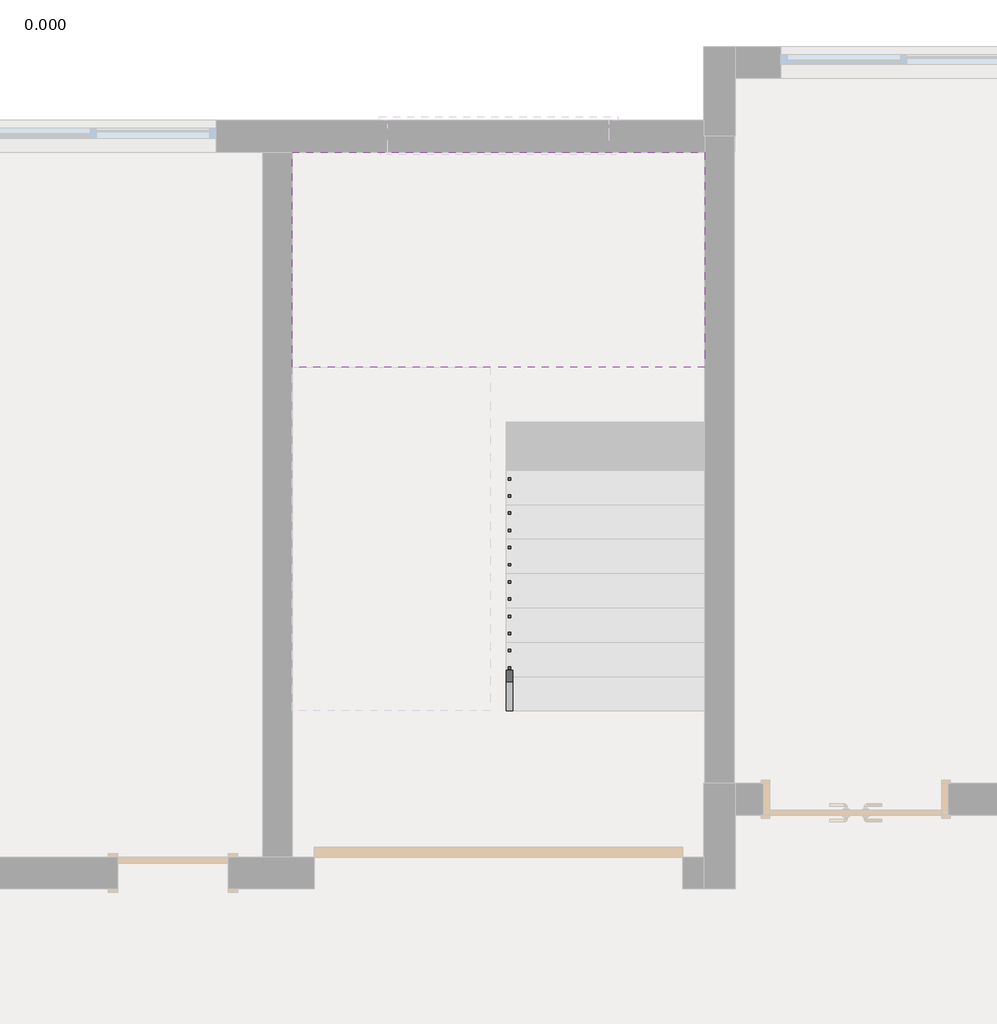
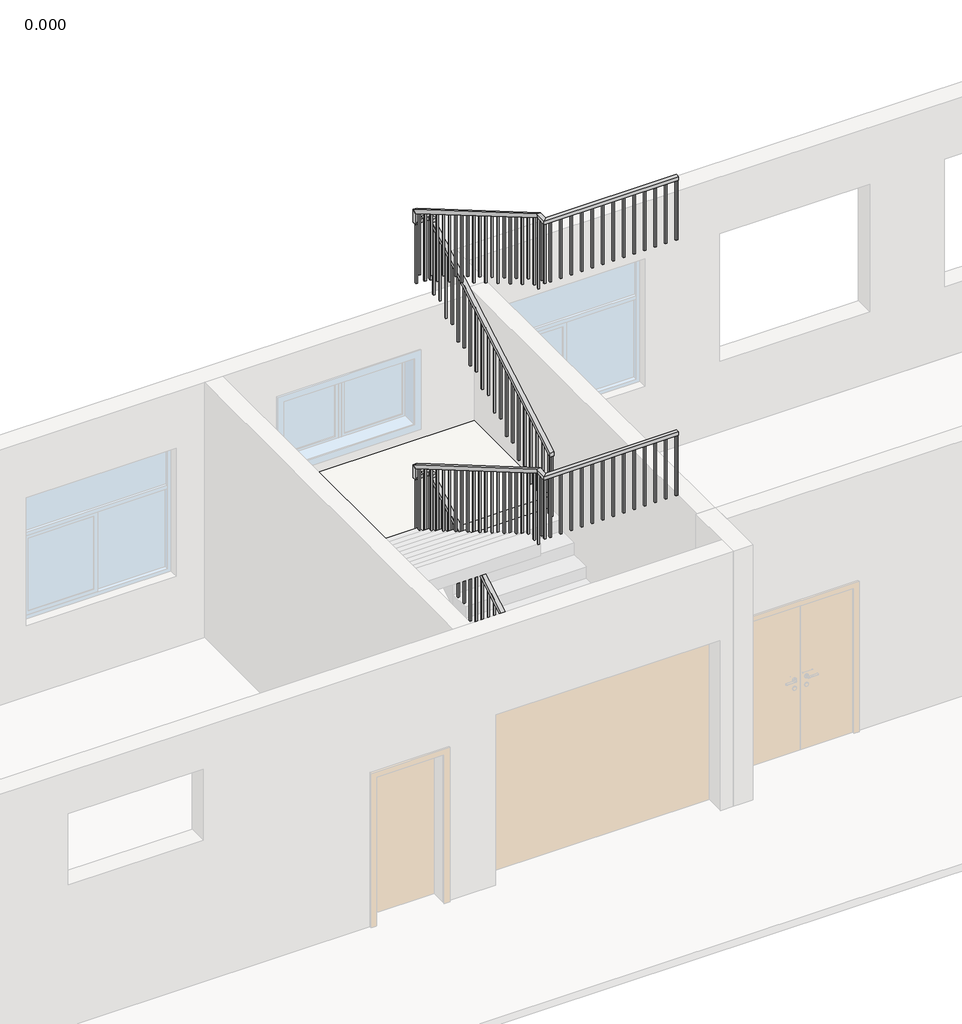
# One storey, part 2 of 3: 1 railing, 1 slab.
"""IFC4 building model written with IfcOpenShell, lengths in millimetres."""

from ifc_helpers import new_model, si_unit, frame, origin, place, context, project, spatial, polyline, outline, extrude, faceted_brep, element, save

model = new_model("IFC4")

# Units and contexts
model_context = context("Model", 3, world=origin())
ifc_project = project(units=[si_unit("LENGTHUNIT", "METRE", prefix="MILLI")], contexts=[model_context])

# Site, building, storey
site = spatial("IfcSite", under=ifc_project)
building = spatial("IfcBuilding", under=site)
storey = spatial("IfcBuildingStorey", under=building, Name="0.000", Elevation=0.0)

# Railing
placement = place(None, origin())
element("IfcRailing", 1, ObjectType="900mm", at=placement, inside=storey, context=model_context, shape_type="SolidModel", body=[
    faceted_brep([(406.2785458, -22818.2373497, 4663.6363636), (406.2785458, -22818.2373497, 4605.7238957), (456.2785458, -22818.2373497, 4605.7238957), (456.2785458, -22818.2373497, 4663.6363636), (406.2785458, -20092.8373497, 6256.4025974), (406.2785458, -20042.8373497, 6227.7109087), (456.2785458, -20042.8373497, 6227.7109087), (456.2785458, -20092.8373497, 6256.4025974), (406.2785458, -20092.8373497, 6300.0), (406.2785458, -20042.8373497, 6250.0), (456.2785458, -20042.8373497, 6250.0), (456.2785458, -20092.8373497, 6300.0), (406.2785458, -20017.8373497, 6300.0), (406.2785458, -20017.8373497, 6250.0), (456.2785458, -19967.8373497, 6250.0), (456.2785458, -19967.8373497, 6300.0), (331.2785458, -20017.8373497, 6300.0), (331.2785458, -20017.8373497, 6250.0), (331.2785458, -19967.8373497, 6250.0), (331.2785458, -19967.8373497, 6300.0), (275.4785458, -20017.8373497, 6300.0), (275.4785458, -19967.8373497, 6300.0), (225.4785458, -19967.8373497, 6250.0), (225.4785458, -20017.8373497, 6250.0)], [[[0, 1, 2, 3]], [[1, 0, 4, 5]], [[2, 1, 5, 6]], [[3, 2, 6, 7]], [[0, 3, 7, 4]], [[5, 4, 8, 9]], [[6, 5, 9, 10]], [[7, 6, 10, 11]], [[4, 7, 11, 8]], [[9, 8, 12, 13]], [[10, 9, 13, 14]], [[11, 10, 14, 15]], [[8, 11, 15, 12]], [[13, 12, 16, 17]], [[14, 13, 17, 18]], [[15, 14, 18, 19]], [[12, 15, 19, 16]], [[20, 21, 22, 23]], [[17, 16, 20, 23]], [[18, 17, 23, 22]], [[19, 18, 22, 21]], [[16, 19, 21, 20]]]),
    faceted_brep([(275.4785458, -20017.8373497, 6300.0), (225.4785458, -20017.8373497, 6250.0), (225.4785458, -19967.8373497, 6250.0), (275.4785458, -19967.8373497, 6300.0), (275.4785458, -20017.8373497, 6405.4901295), (275.4785458, -19967.8373497, 6434.1818182), (225.4785458, -19967.8373497, 6434.1818182), (225.4785458, -20017.8373497, 6405.4901295)], [[[0, 1, 2, 3]], [[4, 5, 6, 7]], [[1, 0, 4, 7]], [[2, 1, 7, 6]], [[3, 2, 6, 5]], [[0, 3, 5, 4]]]),
    faceted_brep([(275.4785458, -19967.8373497, 6434.1818182), (275.4785458, -20017.8373497, 6405.4901295), (225.4785458, -20017.8373497, 6405.4901295), (225.4785458, -19967.8373497, 6434.1818182), (275.4785458, -22818.2373497, 8100.0), (275.4785458, -22831.7764614, 8050.0), (225.4785458, -22831.7764614, 8050.0), (225.4785458, -22818.2373497, 8100.0), (275.4785458, -22938.6373497, 8100.0), (275.4785458, -22938.6373497, 8050.0), (225.4785458, -22988.6373497, 8050.0), (225.4785458, -22988.6373497, 8100.0), (2020.8785458, -22938.6373497, 8100.0), (2020.8785458, -22988.6373497, 8100.0), (2020.8785458, -22988.6373497, 8050.0), (2020.8785458, -22938.6373497, 8050.0)], [[[0, 1, 2, 3]], [[1, 0, 4, 5]], [[2, 1, 5, 6]], [[3, 2, 6, 7]], [[0, 3, 7, 4]], [[5, 4, 8, 9]], [[6, 5, 9, 10]], [[7, 6, 10, 11]], [[4, 7, 11, 8]], [[12, 13, 14, 15]], [[9, 8, 12, 15]], [[10, 9, 15, 14]], [[11, 10, 14, 13]], [[8, 11, 13, 12]]]),
    faceted_brep([(406.2785458, -22818.2373497, 1063.6363636), (406.2785458, -22818.2373497, 1005.7238957), (456.2785458, -22818.2373497, 1005.7238957), (456.2785458, -22818.2373497, 1063.6363636), (406.2785458, -20092.8373497, 2656.4025974), (406.2785458, -20042.8373497, 2627.7109087), (456.2785458, -20042.8373497, 2627.7109087), (456.2785458, -20092.8373497, 2656.4025974), (406.2785458, -20092.8373497, 2700.0), (406.2785458, -20042.8373497, 2650.0), (456.2785458, -20042.8373497, 2650.0), (456.2785458, -20092.8373497, 2700.0), (406.2785458, -20017.8373497, 2700.0), (406.2785458, -20017.8373497, 2650.0), (456.2785458, -19967.8373497, 2650.0), (456.2785458, -19967.8373497, 2700.0), (331.2785458, -20017.8373497, 2700.0), (331.2785458, -20017.8373497, 2650.0), (331.2785458, -19967.8373497, 2650.0), (331.2785458, -19967.8373497, 2700.0), (275.4785458, -20017.8373497, 2700.0), (275.4785458, -19967.8373497, 2700.0), (225.4785458, -19967.8373497, 2650.0), (225.4785458, -20017.8373497, 2650.0)], [[[0, 1, 2, 3]], [[1, 0, 4, 5]], [[2, 1, 5, 6]], [[3, 2, 6, 7]], [[0, 3, 7, 4]], [[5, 4, 8, 9]], [[6, 5, 9, 10]], [[7, 6, 10, 11]], [[4, 7, 11, 8]], [[9, 8, 12, 13]], [[10, 9, 13, 14]], [[11, 10, 14, 15]], [[8, 11, 15, 12]], [[13, 12, 16, 17]], [[14, 13, 17, 18]], [[15, 14, 18, 19]], [[12, 15, 19, 16]], [[20, 21, 22, 23]], [[17, 16, 20, 23]], [[18, 17, 23, 22]], [[19, 18, 22, 21]], [[16, 19, 21, 20]]]),
    faceted_brep([(275.4785458, -20017.8373497, 2700.0), (225.4785458, -20017.8373497, 2650.0), (225.4785458, -19967.8373497, 2650.0), (275.4785458, -19967.8373497, 2700.0), (275.4785458, -20017.8373497, 2805.4901295), (275.4785458, -19967.8373497, 2834.1818182), (225.4785458, -19967.8373497, 2834.1818182), (225.4785458, -20017.8373497, 2805.4901295)], [[[0, 1, 2, 3]], [[4, 5, 6, 7]], [[1, 0, 4, 7]], [[2, 1, 7, 6]], [[3, 2, 6, 5]], [[0, 3, 5, 4]]]),
    faceted_brep([(275.4785458, -19967.8373497, 2834.1818182), (275.4785458, -20017.8373497, 2805.4901295), (225.4785458, -20017.8373497, 2805.4901295), (225.4785458, -19967.8373497, 2834.1818182), (275.4785458, -22818.2373497, 4500.0), (275.4785458, -22831.7764614, 4450.0), (225.4785458, -22831.7764614, 4450.0), (225.4785458, -22818.2373497, 4500.0), (275.4785458, -22938.6373497, 4500.0), (275.4785458, -22938.6373497, 4450.0), (225.4785458, -22988.6373497, 4450.0), (225.4785458, -22988.6373497, 4500.0), (2020.8785458, -22938.6373497, 4500.0), (2020.8785458, -22988.6373497, 4500.0), (2020.8785458, -22988.6373497, 4450.0), (2020.8785458, -22938.6373497, 4450.0)], [[[0, 1, 2, 3]], [[1, 0, 4, 5]], [[2, 1, 5, 6]], [[3, 2, 6, 7]], [[0, 3, 7, 4]], [[5, 4, 8, 9]], [[6, 5, 9, 10]], [[7, 6, 10, 11]], [[4, 7, 11, 8]], [[12, 13, 14, 15]], [[9, 8, 12, 15]], [[10, 9, 15, 14]], [[11, 10, 14, 13]], [[8, 11, 13, 12]]]),
    extrude(outline(polyline([(1990.4785458, -22953.6373497), (2010.4785458, -22953.6373497), (2010.4785458, -22973.6373497), (1990.4785458, -22973.6373497), (1990.4785458, -22953.6373497)])), frame((0.0, 0.0, 7200.0), z_axis=(0.0, 0.0, 1.0), x_axis=(1.0, 0.0, 0.0)), (0.0, 0.0, 1.0), 850.0),
    extrude(outline(polyline([(1850.4785458, -22953.6373497), (1870.4785458, -22953.6373497), (1870.4785458, -22973.6373497), (1850.4785458, -22973.6373497), (1850.4785458, -22953.6373497)])), frame((0.0, 0.0, 7200.0), z_axis=(0.0, 0.0, 1.0), x_axis=(1.0, 0.0, 0.0)), (0.0, 0.0, 1.0), 850.0),
    extrude(outline(polyline([(1710.4785458, -22953.6373497), (1730.4785458, -22953.6373497), (1730.4785458, -22973.6373497), (1710.4785458, -22973.6373497), (1710.4785458, -22953.6373497)])), frame((0.0, 0.0, 7200.0), z_axis=(0.0, 0.0, 1.0), x_axis=(1.0, 0.0, 0.0)), (0.0, 0.0, 1.0), 850.0),
    extrude(outline(polyline([(1570.4785458, -22953.6373497), (1590.4785458, -22953.6373497), (1590.4785458, -22973.6373497), (1570.4785458, -22973.6373497), (1570.4785458, -22953.6373497)])), frame((0.0, 0.0, 7200.0), z_axis=(0.0, 0.0, 1.0), x_axis=(1.0, 0.0, 0.0)), (0.0, 0.0, 1.0), 850.0),
    extrude(outline(polyline([(1430.4785458, -22953.6373497), (1450.4785458, -22953.6373497), (1450.4785458, -22973.6373497), (1430.4785458, -22973.6373497), (1430.4785458, -22953.6373497)])), frame((0.0, 0.0, 7200.0), z_axis=(0.0, 0.0, 1.0), x_axis=(1.0, 0.0, 0.0)), (0.0, 0.0, 1.0), 850.0),
    extrude(outline(polyline([(1290.4785458, -22953.6373497), (1310.4785458, -22953.6373497), (1310.4785458, -22973.6373497), (1290.4785458, -22973.6373497), (1290.4785458, -22953.6373497)])), frame((0.0, 0.0, 7200.0), z_axis=(0.0, 0.0, 1.0), x_axis=(1.0, 0.0, 0.0)), (0.0, 0.0, 1.0), 850.0),
    extrude(outline(polyline([(1150.4785458, -22953.6373497), (1170.4785458, -22953.6373497), (1170.4785458, -22973.6373497), (1150.4785458, -22973.6373497), (1150.4785458, -22953.6373497)])), frame((0.0, 0.0, 7200.0), z_axis=(0.0, 0.0, 1.0), x_axis=(1.0, 0.0, 0.0)), (0.0, 0.0, 1.0), 850.0),
    extrude(outline(polyline([(1010.4785458, -22953.6373497), (1030.4785458, -22953.6373497), (1030.4785458, -22973.6373497), (1010.4785458, -22973.6373497), (1010.4785458, -22953.6373497)])), frame((0.0, 0.0, 7200.0), z_axis=(0.0, 0.0, 1.0), x_axis=(1.0, 0.0, 0.0)), (0.0, 0.0, 1.0), 850.0),
    extrude(outline(polyline([(870.4785458, -22953.6373497), (890.4785458, -22953.6373497), (890.4785458, -22973.6373497), (870.4785458, -22973.6373497), (870.4785458, -22953.6373497)])), frame((0.0, 0.0, 7200.0), z_axis=(0.0, 0.0, 1.0), x_axis=(1.0, 0.0, 0.0)), (0.0, 0.0, 1.0), 850.0),
    extrude(outline(polyline([(730.4785458, -22953.6373497), (750.4785458, -22953.6373497), (750.4785458, -22973.6373497), (730.4785458, -22973.6373497), (730.4785458, -22953.6373497)])), frame((0.0, 0.0, 7200.0), z_axis=(0.0, 0.0, 1.0), x_axis=(1.0, 0.0, 0.0)), (0.0, 0.0, 1.0), 850.0),
    extrude(outline(polyline([(590.4785458, -22953.6373497), (610.4785458, -22953.6373497), (610.4785458, -22973.6373497), (590.4785458, -22973.6373497), (590.4785458, -22953.6373497)])), frame((0.0, 0.0, 7200.0), z_axis=(0.0, 0.0, 1.0), x_axis=(1.0, 0.0, 0.0)), (0.0, 0.0, 1.0), 850.0),
    extrude(outline(polyline([(450.4785458, -22953.6373497), (470.4785458, -22953.6373497), (470.4785458, -22973.6373497), (450.4785458, -22973.6373497), (450.4785458, -22953.6373497)])), frame((0.0, 0.0, 7200.0), z_axis=(0.0, 0.0, 1.0), x_axis=(1.0, 0.0, 0.0)), (0.0, 0.0, 1.0), 850.0),
    extrude(outline(polyline([(310.4785458, -22953.6373497), (330.4785458, -22953.6373497), (330.4785458, -22973.6373497), (310.4785458, -22973.6373497), (310.4785458, -22953.6373497)])), frame((0.0, 0.0, 7200.0), z_axis=(0.0, 0.0, 1.0), x_axis=(1.0, 0.0, 0.0)), (0.0, 0.0, 1.0), 850.0),
    extrude(outline(polyline([(260.4785458, -22878.2373497), (260.4785458, -22898.2373497), (240.4785458, -22898.2373497), (240.4785458, -22878.2373497), (260.4785458, -22878.2373497)])), frame((0.0, 0.0, 7200.0), z_axis=(0.0, 0.0, 1.0), x_axis=(1.0, 0.0, 0.0)), (0.0, 0.0, 1.0), 850.0),
    extrude(outline(polyline([(-22712.8373497, 7036.3636364), (-22732.8373497, 7036.3636364), (-22732.8373497, 7992.1784412), (-22712.8373497, 7980.4901295), (-22712.8373497, 7036.3636364)])), frame((240.4785458, 0.0, 0.0), z_axis=(1.0, 0.0, 0.0), x_axis=(0.0, 1.0, 0.0)), (0.0, 0.0, 1.0), 20.0),
    extrude(outline(polyline([(-22572.8373497, 7036.3636364), (-22592.8373497, 7036.3636364), (-22592.8373497, 7910.3602594), (-22572.8373497, 7898.6719477), (-22572.8373497, 7036.3636364)])), frame((240.4785458, 0.0, 0.0), z_axis=(1.0, 0.0, 0.0), x_axis=(0.0, 1.0, 0.0)), (0.0, 0.0, 1.0), 20.0),
    extrude(outline(polyline([(-22432.8373497, 6872.7272727), (-22452.8373497, 6872.7272727), (-22452.8373497, 7828.5420776), (-22432.8373497, 7816.8537659), (-22432.8373497, 6872.7272727)])), frame((240.4785458, 0.0, 0.0), z_axis=(1.0, 0.0, 0.0), x_axis=(0.0, 1.0, 0.0)), (0.0, 0.0, 1.0), 20.0),
    extrude(outline(polyline([(-22292.8373497, 6872.7272727), (-22312.8373497, 6872.7272727), (-22312.8373497, 7746.7238957), (-22292.8373497, 7735.0355841), (-22292.8373497, 6872.7272727)])), frame((240.4785458, 0.0, 0.0), z_axis=(1.0, 0.0, 0.0), x_axis=(0.0, 1.0, 0.0)), (0.0, 0.0, 1.0), 20.0),
    extrude(outline(polyline([(-22152.8373497, 6709.0909091), (-22172.8373497, 6709.0909091), (-22172.8373497, 7664.9057139), (-22152.8373497, 7653.2174022), (-22152.8373497, 6709.0909091)])), frame((240.4785458, 0.0, 0.0), z_axis=(1.0, 0.0, 0.0), x_axis=(0.0, 1.0, 0.0)), (0.0, 0.0, 1.0), 20.0),
    extrude(outline(polyline([(-22012.8373497, 6709.0909091), (-22032.8373497, 6709.0909091), (-22032.8373497, 7583.0875321), (-22012.8373497, 7571.3992204), (-22012.8373497, 6709.0909091)])), frame((240.4785458, 0.0, 0.0), z_axis=(1.0, 0.0, 0.0), x_axis=(0.0, 1.0, 0.0)), (0.0, 0.0, 1.0), 20.0),
    extrude(outline(polyline([(-21872.8373497, 6545.4545455), (-21892.8373497, 6545.4545455), (-21892.8373497, 7501.2693503), (-21872.8373497, 7489.5810386), (-21872.8373497, 6545.4545455)])), frame((240.4785458, 0.0, 0.0), z_axis=(1.0, 0.0, 0.0), x_axis=(0.0, 1.0, 0.0)), (0.0, 0.0, 1.0), 20.0),
    extrude(outline(polyline([(-21732.8373497, 6545.4545455), (-21752.8373497, 6545.4545455), (-21752.8373497, 7419.4511685), (-21732.8373497, 7407.7628568), (-21732.8373497, 6545.4545455)])), frame((240.4785458, 0.0, 0.0), z_axis=(1.0, 0.0, 0.0), x_axis=(0.0, 1.0, 0.0)), (0.0, 0.0, 1.0), 20.0),
    extrude(outline(polyline([(-21592.8373497, 6381.8181818), (-21612.8373497, 6381.8181818), (-21612.8373497, 7337.6329866), (-21592.8373497, 7325.944675), (-21592.8373497, 6381.8181818)])), frame((240.4785458, 0.0, 0.0), z_axis=(1.0, 0.0, 0.0), x_axis=(0.0, 1.0, 0.0)), (0.0, 0.0, 1.0), 20.0),
    extrude(outline(polyline([(-21452.8373497, 6381.8181818), (-21472.8373497, 6381.8181818), (-21472.8373497, 7255.8148048), (-21452.8373497, 7244.1264931), (-21452.8373497, 6381.8181818)])), frame((240.4785458, 0.0, 0.0), z_axis=(1.0, 0.0, 0.0), x_axis=(0.0, 1.0, 0.0)), (0.0, 0.0, 1.0), 20.0),
    extrude(outline(polyline([(-21312.8373497, 6218.1818182), (-21332.8373497, 6218.1818182), (-21332.8373497, 7173.996623), (-21312.8373497, 7162.3083113), (-21312.8373497, 6218.1818182)])), frame((240.4785458, 0.0, 0.0), z_axis=(1.0, 0.0, 0.0), x_axis=(0.0, 1.0, 0.0)), (0.0, 0.0, 1.0), 20.0),
    extrude(outline(polyline([(-21172.8373497, 6218.1818182), (-21192.8373497, 6218.1818182), (-21192.8373497, 7092.1784412), (-21172.8373497, 7080.4901295), (-21172.8373497, 6218.1818182)])), frame((240.4785458, 0.0, 0.0), z_axis=(1.0, 0.0, 0.0), x_axis=(0.0, 1.0, 0.0)), (0.0, 0.0, 1.0), 20.0),
    extrude(outline(polyline([(-21032.8373497, 6054.5454545), (-21052.8373497, 6054.5454545), (-21052.8373497, 7010.3602594), (-21032.8373497, 6998.6719477), (-21032.8373497, 6054.5454545)])), frame((240.4785458, 0.0, 0.0), z_axis=(1.0, 0.0, 0.0), x_axis=(0.0, 1.0, 0.0)), (0.0, 0.0, 1.0), 20.0),
    extrude(outline(polyline([(-20892.8373497, 6054.5454545), (-20912.8373497, 6054.5454545), (-20912.8373497, 6928.5420776), (-20892.8373497, 6916.8537659), (-20892.8373497, 6054.5454545)])), frame((240.4785458, 0.0, 0.0), z_axis=(1.0, 0.0, 0.0), x_axis=(0.0, 1.0, 0.0)), (0.0, 0.0, 1.0), 20.0),
    extrude(outline(polyline([(-20752.8373497, 5890.9090909), (-20772.8373497, 5890.9090909), (-20772.8373497, 6846.7238957), (-20752.8373497, 6835.0355841), (-20752.8373497, 5890.9090909)])), frame((240.4785458, 0.0, 0.0), z_axis=(1.0, 0.0, 0.0), x_axis=(0.0, 1.0, 0.0)), (0.0, 0.0, 1.0), 20.0),
    extrude(outline(polyline([(-20612.8373497, 5890.9090909), (-20632.8373497, 5890.9090909), (-20632.8373497, 6764.9057139), (-20612.8373497, 6753.2174022), (-20612.8373497, 5890.9090909)])), frame((240.4785458, 0.0, 0.0), z_axis=(1.0, 0.0, 0.0), x_axis=(0.0, 1.0, 0.0)), (0.0, 0.0, 1.0), 20.0),
    extrude(outline(polyline([(-20472.8373497, 5727.2727273), (-20492.8373497, 5727.2727273), (-20492.8373497, 6683.0875321), (-20472.8373497, 6671.3992204), (-20472.8373497, 5727.2727273)])), frame((240.4785458, 0.0, 0.0), z_axis=(1.0, 0.0, 0.0), x_axis=(0.0, 1.0, 0.0)), (0.0, 0.0, 1.0), 20.0),
    extrude(outline(polyline([(-20332.8373497, 5727.2727273), (-20352.8373497, 5727.2727273), (-20352.8373497, 6601.2693503), (-20332.8373497, 6589.5810386), (-20332.8373497, 5727.2727273)])), frame((240.4785458, 0.0, 0.0), z_axis=(1.0, 0.0, 0.0), x_axis=(0.0, 1.0, 0.0)), (0.0, 0.0, 1.0), 20.0),
    extrude(outline(polyline([(-20192.8373497, 5563.6363636), (-20212.8373497, 5563.6363636), (-20212.8373497, 6519.4511685), (-20192.8373497, 6507.7628568), (-20192.8373497, 5563.6363636)])), frame((240.4785458, 0.0, 0.0), z_axis=(1.0, 0.0, 0.0), x_axis=(0.0, 1.0, 0.0)), (0.0, 0.0, 1.0), 20.0),
    extrude(outline(polyline([(-20052.8373497, 5563.6363636), (-20072.8373497, 5563.6363636), (-20072.8373497, 6437.6329866), (-20052.8373497, 6425.944675), (-20052.8373497, 5563.6363636)])), frame((240.4785458, 0.0, 0.0), z_axis=(1.0, 0.0, 0.0), x_axis=(0.0, 1.0, 0.0)), (0.0, 0.0, 1.0), 20.0),
    extrude(outline(polyline([(371.2785458, -20002.8373497), (351.2785458, -20002.8373497), (351.2785458, -19982.8373497), (371.2785458, -19982.8373497), (371.2785458, -20002.8373497)])), frame((0.0, 0.0, 5400.0), z_axis=(0.0, 0.0, 1.0), x_axis=(1.0, 0.0, 0.0)), (0.0, 0.0, 1.0), 850.0),
    extrude(outline(polyline([(-20098.2373497, 6195.3342853), (-20078.2373497, 6207.022597), (-20078.2373497, 5236.3636364), (-20098.2373497, 5236.3636364), (-20098.2373497, 6195.3342853)])), frame((421.2785458, 0.0, 0.0), z_axis=(1.0, 0.0, 0.0), x_axis=(0.0, 1.0, 0.0)), (0.0, 0.0, 1.0), 20.0),
    extrude(outline(polyline([(-20238.2373497, 6113.5161035), (-20218.2373497, 6125.2044152), (-20218.2373497, 5236.3636364), (-20238.2373497, 5236.3636364), (-20238.2373497, 6113.5161035)])), frame((421.2785458, 0.0, 0.0), z_axis=(1.0, 0.0, 0.0), x_axis=(0.0, 1.0, 0.0)), (0.0, 0.0, 1.0), 20.0),
    extrude(outline(polyline([(-20378.2373497, 6031.6979217), (-20358.2373497, 6043.3862334), (-20358.2373497, 5072.7272727), (-20378.2373497, 5072.7272727), (-20378.2373497, 6031.6979217)])), frame((421.2785458, 0.0, 0.0), z_axis=(1.0, 0.0, 0.0), x_axis=(0.0, 1.0, 0.0)), (0.0, 0.0, 1.0), 20.0),
    extrude(outline(polyline([(-20518.2373497, 5949.8797399), (-20498.2373497, 5961.5680516), (-20498.2373497, 5072.7272727), (-20518.2373497, 5072.7272727), (-20518.2373497, 5949.8797399)])), frame((421.2785458, 0.0, 0.0), z_axis=(1.0, 0.0, 0.0), x_axis=(0.0, 1.0, 0.0)), (0.0, 0.0, 1.0), 20.0),
    extrude(outline(polyline([(-20658.2373497, 5868.0615581), (-20638.2373497, 5879.7498698), (-20638.2373497, 4909.0909091), (-20658.2373497, 4909.0909091), (-20658.2373497, 5868.0615581)])), frame((421.2785458, 0.0, 0.0), z_axis=(1.0, 0.0, 0.0), x_axis=(0.0, 1.0, 0.0)), (0.0, 0.0, 1.0), 20.0),
    extrude(outline(polyline([(-20798.2373497, 5786.2433763), (-20778.2373497, 5797.9316879), (-20778.2373497, 4909.0909091), (-20798.2373497, 4909.0909091), (-20798.2373497, 5786.2433763)])), frame((421.2785458, 0.0, 0.0), z_axis=(1.0, 0.0, 0.0), x_axis=(0.0, 1.0, 0.0)), (0.0, 0.0, 1.0), 20.0),
    extrude(outline(polyline([(-20938.2373497, 5704.4251944), (-20918.2373497, 5716.1135061), (-20918.2373497, 4745.4545455), (-20938.2373497, 4745.4545455), (-20938.2373497, 5704.4251944)])), frame((421.2785458, 0.0, 0.0), z_axis=(1.0, 0.0, 0.0), x_axis=(0.0, 1.0, 0.0)), (0.0, 0.0, 1.0), 20.0),
    extrude(outline(polyline([(-21078.2373497, 5622.6070126), (-21058.2373497, 5634.2953243), (-21058.2373497, 4745.4545455), (-21078.2373497, 4745.4545455), (-21078.2373497, 5622.6070126)])), frame((421.2785458, 0.0, 0.0), z_axis=(1.0, 0.0, 0.0), x_axis=(0.0, 1.0, 0.0)), (0.0, 0.0, 1.0), 20.0),
    extrude(outline(polyline([(-21218.2373497, 5540.7888308), (-21198.2373497, 5552.4771425), (-21198.2373497, 4581.8181818), (-21218.2373497, 4581.8181818), (-21218.2373497, 5540.7888308)])), frame((421.2785458, 0.0, 0.0), z_axis=(1.0, 0.0, 0.0), x_axis=(0.0, 1.0, 0.0)), (0.0, 0.0, 1.0), 20.0),
    extrude(outline(polyline([(-21358.2373497, 5458.970649), (-21338.2373497, 5470.6589607), (-21338.2373497, 4581.8181818), (-21358.2373497, 4581.8181818), (-21358.2373497, 5458.970649)])), frame((421.2785458, 0.0, 0.0), z_axis=(1.0, 0.0, 0.0), x_axis=(0.0, 1.0, 0.0)), (0.0, 0.0, 1.0), 20.0),
    extrude(outline(polyline([(-21498.2373497, 5377.1524672), (-21478.2373497, 5388.8407789), (-21478.2373497, 4418.1818182), (-21498.2373497, 4418.1818182), (-21498.2373497, 5377.1524672)])), frame((421.2785458, 0.0, 0.0), z_axis=(1.0, 0.0, 0.0), x_axis=(0.0, 1.0, 0.0)), (0.0, 0.0, 1.0), 20.0),
    extrude(outline(polyline([(-21638.2373497, 5295.3342853), (-21618.2373497, 5307.022597), (-21618.2373497, 4418.1818182), (-21638.2373497, 4418.1818182), (-21638.2373497, 5295.3342853)])), frame((421.2785458, 0.0, 0.0), z_axis=(1.0, 0.0, 0.0), x_axis=(0.0, 1.0, 0.0)), (0.0, 0.0, 1.0), 20.0),
    extrude(outline(polyline([(-21778.2373497, 5213.5161035), (-21758.2373497, 5225.2044152), (-21758.2373497, 4254.5454545), (-21778.2373497, 4254.5454545), (-21778.2373497, 5213.5161035)])), frame((421.2785458, 0.0, 0.0), z_axis=(1.0, 0.0, 0.0), x_axis=(0.0, 1.0, 0.0)), (0.0, 0.0, 1.0), 20.0),
    extrude(outline(polyline([(-21918.2373497, 5131.6979217), (-21898.2373497, 5143.3862334), (-21898.2373497, 4254.5454545), (-21918.2373497, 4254.5454545), (-21918.2373497, 5131.6979217)])), frame((421.2785458, 0.0, 0.0), z_axis=(1.0, 0.0, 0.0), x_axis=(0.0, 1.0, 0.0)), (0.0, 0.0, 1.0), 20.0),
    extrude(outline(polyline([(-22058.2373497, 5049.8797399), (-22038.2373497, 5061.5680516), (-22038.2373497, 4090.9090909), (-22058.2373497, 4090.9090909), (-22058.2373497, 5049.8797399)])), frame((421.2785458, 0.0, 0.0), z_axis=(1.0, 0.0, 0.0), x_axis=(0.0, 1.0, 0.0)), (0.0, 0.0, 1.0), 20.0),
    extrude(outline(polyline([(-22198.2373497, 4968.0615581), (-22178.2373497, 4979.7498698), (-22178.2373497, 4090.9090909), (-22198.2373497, 4090.9090909), (-22198.2373497, 4968.0615581)])), frame((421.2785458, 0.0, 0.0), z_axis=(1.0, 0.0, 0.0), x_axis=(0.0, 1.0, 0.0)), (0.0, 0.0, 1.0), 20.0),
    extrude(outline(polyline([(-22338.2373497, 4886.2433763), (-22318.2373497, 4897.9316879), (-22318.2373497, 3927.2727273), (-22338.2373497, 3927.2727273), (-22338.2373497, 4886.2433763)])), frame((421.2785458, 0.0, 0.0), z_axis=(1.0, 0.0, 0.0), x_axis=(0.0, 1.0, 0.0)), (0.0, 0.0, 1.0), 20.0),
    extrude(outline(polyline([(-22478.2373497, 4804.4251944), (-22458.2373497, 4816.1135061), (-22458.2373497, 3927.2727273), (-22478.2373497, 3927.2727273), (-22478.2373497, 4804.4251944)])), frame((421.2785458, 0.0, 0.0), z_axis=(1.0, 0.0, 0.0), x_axis=(0.0, 1.0, 0.0)), (0.0, 0.0, 1.0), 20.0),
    extrude(outline(polyline([(-22618.2373497, 4722.6070126), (-22598.2373497, 4734.2953243), (-22598.2373497, 3763.6363636), (-22618.2373497, 3763.6363636), (-22618.2373497, 4722.6070126)])), frame((421.2785458, 0.0, 0.0), z_axis=(1.0, 0.0, 0.0), x_axis=(0.0, 1.0, 0.0)), (0.0, 0.0, 1.0), 20.0),
    extrude(outline(polyline([(-22758.2373497, 4640.7888308), (-22738.2373497, 4652.4771425), (-22738.2373497, 3763.6363636), (-22758.2373497, 3763.6363636), (-22758.2373497, 4640.7888308)])), frame((421.2785458, 0.0, 0.0), z_axis=(1.0, 0.0, 0.0), x_axis=(0.0, 1.0, 0.0)), (0.0, 0.0, 1.0), 20.0),
    extrude(outline(polyline([(260.4785458, -22953.6373497), (260.4785458, -22973.6373497), (240.4785458, -22973.6373497), (240.4785458, -22953.6373497), (260.4785458, -22953.6373497)])), frame((0.0, 0.0, 7200.0), z_axis=(0.0, 0.0, 1.0), x_axis=(1.0, 0.0, 0.0)), (0.0, 0.0, 1.0), 850.0),
    extrude(outline(polyline([(-22808.2373497, 7036.3636364), (-22828.2373497, 7036.3636364), (-22828.2373497, 8047.9316879), (-22808.2373497, 8036.2433763), (-22808.2373497, 7036.3636364)])), frame((240.4785458, 0.0, 0.0), z_axis=(1.0, 0.0, 0.0), x_axis=(0.0, 1.0, 0.0)), (0.0, 0.0, 1.0), 20.0),
    extrude(outline(polyline([(260.4785458, -19982.8373497), (260.4785458, -20002.8373497), (240.4785458, -20002.8373497), (240.4785458, -19982.8373497), (260.4785458, -19982.8373497)])), frame((0.0, 0.0, 5400.0), z_axis=(0.0, 0.0, 1.0), x_axis=(1.0, 0.0, 0.0)), (0.0, 0.0, 1.0), 850.0),
    extrude(outline(polyline([(421.2785458, -20002.8373497), (421.2785458, -19982.8373497), (441.2785458, -19982.8373497), (441.2785458, -20002.8373497), (421.2785458, -20002.8373497)])), frame((0.0, 0.0, 5400.0), z_axis=(0.0, 0.0, 1.0), x_axis=(1.0, 0.0, 0.0)), (0.0, 0.0, 1.0), 850.0),
    extrude(outline(polyline([(421.2785458, -20028.2373497), (421.2785458, -20008.2373497), (441.2785458, -20008.2373497), (441.2785458, -20028.2373497), (421.2785458, -20028.2373497)])), frame((0.0, 0.0, 5400.0), z_axis=(0.0, 0.0, 1.0), x_axis=(1.0, 0.0, 0.0)), (0.0, 0.0, 1.0), 850.0),
    extrude(outline(polyline([(2000.8785458, -22953.6373497), (2020.8785458, -22953.6373497), (2020.8785458, -22973.6373497), (2000.8785458, -22973.6373497), (2000.8785458, -22953.6373497)])), frame((0.0, 0.0, 7200.0), z_axis=(0.0, 0.0, 1.0), x_axis=(1.0, 0.0, 0.0)), (0.0, 0.0, 1.0), 850.0),
    extrude(outline(polyline([(-22818.2373497, 4605.7238957), (-22798.2373497, 4617.4122074), (-22798.2373497, 3763.6363636), (-22818.2373497, 3763.6363636), (-22818.2373497, 4605.7238957)])), frame((421.2785458, 0.0, 0.0), z_axis=(1.0, 0.0, 0.0), x_axis=(0.0, 1.0, 0.0)), (0.0, 0.0, 1.0), 20.0),
    extrude(outline(polyline([(1990.4785458, -22953.6373497), (2010.4785458, -22953.6373497), (2010.4785458, -22973.6373497), (1990.4785458, -22973.6373497), (1990.4785458, -22953.6373497)])), frame((0.0, 0.0, 3600.0), z_axis=(0.0, 0.0, 1.0), x_axis=(1.0, 0.0, 0.0)), (0.0, 0.0, 1.0), 850.0),
    extrude(outline(polyline([(1850.4785458, -22953.6373497), (1870.4785458, -22953.6373497), (1870.4785458, -22973.6373497), (1850.4785458, -22973.6373497), (1850.4785458, -22953.6373497)])), frame((0.0, 0.0, 3600.0), z_axis=(0.0, 0.0, 1.0), x_axis=(1.0, 0.0, 0.0)), (0.0, 0.0, 1.0), 850.0),
    extrude(outline(polyline([(1710.4785458, -22953.6373497), (1730.4785458, -22953.6373497), (1730.4785458, -22973.6373497), (1710.4785458, -22973.6373497), (1710.4785458, -22953.6373497)])), frame((0.0, 0.0, 3600.0), z_axis=(0.0, 0.0, 1.0), x_axis=(1.0, 0.0, 0.0)), (0.0, 0.0, 1.0), 850.0),
    extrude(outline(polyline([(1570.4785458, -22953.6373497), (1590.4785458, -22953.6373497), (1590.4785458, -22973.6373497), (1570.4785458, -22973.6373497), (1570.4785458, -22953.6373497)])), frame((0.0, 0.0, 3600.0), z_axis=(0.0, 0.0, 1.0), x_axis=(1.0, 0.0, 0.0)), (0.0, 0.0, 1.0), 850.0),
    extrude(outline(polyline([(1430.4785458, -22953.6373497), (1450.4785458, -22953.6373497), (1450.4785458, -22973.6373497), (1430.4785458, -22973.6373497), (1430.4785458, -22953.6373497)])), frame((0.0, 0.0, 3600.0), z_axis=(0.0, 0.0, 1.0), x_axis=(1.0, 0.0, 0.0)), (0.0, 0.0, 1.0), 850.0),
    extrude(outline(polyline([(1290.4785458, -22953.6373497), (1310.4785458, -22953.6373497), (1310.4785458, -22973.6373497), (1290.4785458, -22973.6373497), (1290.4785458, -22953.6373497)])), frame((0.0, 0.0, 3600.0), z_axis=(0.0, 0.0, 1.0), x_axis=(1.0, 0.0, 0.0)), (0.0, 0.0, 1.0), 850.0),
    extrude(outline(polyline([(1150.4785458, -22953.6373497), (1170.4785458, -22953.6373497), (1170.4785458, -22973.6373497), (1150.4785458, -22973.6373497), (1150.4785458, -22953.6373497)])), frame((0.0, 0.0, 3600.0), z_axis=(0.0, 0.0, 1.0), x_axis=(1.0, 0.0, 0.0)), (0.0, 0.0, 1.0), 850.0),
    extrude(outline(polyline([(1010.4785458, -22953.6373497), (1030.4785458, -22953.6373497), (1030.4785458, -22973.6373497), (1010.4785458, -22973.6373497), (1010.4785458, -22953.6373497)])), frame((0.0, 0.0, 3600.0), z_axis=(0.0, 0.0, 1.0), x_axis=(1.0, 0.0, 0.0)), (0.0, 0.0, 1.0), 850.0),
    extrude(outline(polyline([(870.4785458, -22953.6373497), (890.4785458, -22953.6373497), (890.4785458, -22973.6373497), (870.4785458, -22973.6373497), (870.4785458, -22953.6373497)])), frame((0.0, 0.0, 3600.0), z_axis=(0.0, 0.0, 1.0), x_axis=(1.0, 0.0, 0.0)), (0.0, 0.0, 1.0), 850.0),
    extrude(outline(polyline([(730.4785458, -22953.6373497), (750.4785458, -22953.6373497), (750.4785458, -22973.6373497), (730.4785458, -22973.6373497), (730.4785458, -22953.6373497)])), frame((0.0, 0.0, 3600.0), z_axis=(0.0, 0.0, 1.0), x_axis=(1.0, 0.0, 0.0)), (0.0, 0.0, 1.0), 850.0),
    extrude(outline(polyline([(590.4785458, -22953.6373497), (610.4785458, -22953.6373497), (610.4785458, -22973.6373497), (590.4785458, -22973.6373497), (590.4785458, -22953.6373497)])), frame((0.0, 0.0, 3600.0), z_axis=(0.0, 0.0, 1.0), x_axis=(1.0, 0.0, 0.0)), (0.0, 0.0, 1.0), 850.0),
    extrude(outline(polyline([(450.4785458, -22953.6373497), (470.4785458, -22953.6373497), (470.4785458, -22973.6373497), (450.4785458, -22973.6373497), (450.4785458, -22953.6373497)])), frame((0.0, 0.0, 3600.0), z_axis=(0.0, 0.0, 1.0), x_axis=(1.0, 0.0, 0.0)), (0.0, 0.0, 1.0), 850.0),
    extrude(outline(polyline([(310.4785458, -22953.6373497), (330.4785458, -22953.6373497), (330.4785458, -22973.6373497), (310.4785458, -22973.6373497), (310.4785458, -22953.6373497)])), frame((0.0, 0.0, 3600.0), z_axis=(0.0, 0.0, 1.0), x_axis=(1.0, 0.0, 0.0)), (0.0, 0.0, 1.0), 850.0),
    extrude(outline(polyline([(260.4785458, -22878.2373497), (260.4785458, -22898.2373497), (240.4785458, -22898.2373497), (240.4785458, -22878.2373497), (260.4785458, -22878.2373497)])), frame((0.0, 0.0, 3600.0), z_axis=(0.0, 0.0, 1.0), x_axis=(1.0, 0.0, 0.0)), (0.0, 0.0, 1.0), 850.0),
    extrude(outline(polyline([(-22712.8373497, 3436.3636364), (-22732.8373497, 3436.3636364), (-22732.8373497, 4392.1784412), (-22712.8373497, 4380.4901295), (-22712.8373497, 3436.3636364)])), frame((240.4785458, 0.0, 0.0), z_axis=(1.0, 0.0, 0.0), x_axis=(0.0, 1.0, 0.0)), (0.0, 0.0, 1.0), 20.0),
    extrude(outline(polyline([(-22572.8373497, 3436.3636364), (-22592.8373497, 3436.3636364), (-22592.8373497, 4310.3602594), (-22572.8373497, 4298.6719477), (-22572.8373497, 3436.3636364)])), frame((240.4785458, 0.0, 0.0), z_axis=(1.0, 0.0, 0.0), x_axis=(0.0, 1.0, 0.0)), (0.0, 0.0, 1.0), 20.0),
    extrude(outline(polyline([(-22432.8373497, 3272.7272727), (-22452.8373497, 3272.7272727), (-22452.8373497, 4228.5420776), (-22432.8373497, 4216.8537659), (-22432.8373497, 3272.7272727)])), frame((240.4785458, 0.0, 0.0), z_axis=(1.0, 0.0, 0.0), x_axis=(0.0, 1.0, 0.0)), (0.0, 0.0, 1.0), 20.0),
    extrude(outline(polyline([(-22292.8373497, 3272.7272727), (-22312.8373497, 3272.7272727), (-22312.8373497, 4146.7238957), (-22292.8373497, 4135.035584), (-22292.8373497, 3272.7272727)])), frame((240.4785458, 0.0, 0.0), z_axis=(1.0, 0.0, 0.0), x_axis=(0.0, 1.0, 0.0)), (0.0, 0.0, 1.0), 20.0),
    extrude(outline(polyline([(-22152.8373497, 3109.0909091), (-22172.8373497, 3109.0909091), (-22172.8373497, 4064.9057139), (-22152.8373497, 4053.2174022), (-22152.8373497, 3109.0909091)])), frame((240.4785458, 0.0, 0.0), z_axis=(1.0, 0.0, 0.0), x_axis=(0.0, 1.0, 0.0)), (0.0, 0.0, 1.0), 20.0),
    extrude(outline(polyline([(-22012.8373497, 3109.0909091), (-22032.8373497, 3109.0909091), (-22032.8373497, 3983.0875321), (-22012.8373497, 3971.3992204), (-22012.8373497, 3109.0909091)])), frame((240.4785458, 0.0, 0.0), z_axis=(1.0, 0.0, 0.0), x_axis=(0.0, 1.0, 0.0)), (0.0, 0.0, 1.0), 20.0),
    extrude(outline(polyline([(-21872.8373497, 2945.4545455), (-21892.8373497, 2945.4545455), (-21892.8373497, 3901.2693503), (-21872.8373497, 3889.5810386), (-21872.8373497, 2945.4545455)])), frame((240.4785458, 0.0, 0.0), z_axis=(1.0, 0.0, 0.0), x_axis=(0.0, 1.0, 0.0)), (0.0, 0.0, 1.0), 20.0),
    extrude(outline(polyline([(-21732.8373497, 2945.4545455), (-21752.8373497, 2945.4545455), (-21752.8373497, 3819.4511685), (-21732.8373497, 3807.7628568), (-21732.8373497, 2945.4545455)])), frame((240.4785458, 0.0, 0.0), z_axis=(1.0, 0.0, 0.0), x_axis=(0.0, 1.0, 0.0)), (0.0, 0.0, 1.0), 20.0),
    extrude(outline(polyline([(-21592.8373497, 2781.8181818), (-21612.8373497, 2781.8181818), (-21612.8373497, 3737.6329866), (-21592.8373497, 3725.944675), (-21592.8373497, 2781.8181818)])), frame((240.4785458, 0.0, 0.0), z_axis=(1.0, 0.0, 0.0), x_axis=(0.0, 1.0, 0.0)), (0.0, 0.0, 1.0), 20.0),
    extrude(outline(polyline([(-21452.8373497, 2781.8181818), (-21472.8373497, 2781.8181818), (-21472.8373497, 3655.8148048), (-21452.8373497, 3644.1264931), (-21452.8373497, 2781.8181818)])), frame((240.4785458, 0.0, 0.0), z_axis=(1.0, 0.0, 0.0), x_axis=(0.0, 1.0, 0.0)), (0.0, 0.0, 1.0), 20.0),
    extrude(outline(polyline([(-21312.8373497, 2618.1818182), (-21332.8373497, 2618.1818182), (-21332.8373497, 3573.996623), (-21312.8373497, 3562.3083113), (-21312.8373497, 2618.1818182)])), frame((240.4785458, 0.0, 0.0), z_axis=(1.0, 0.0, 0.0), x_axis=(0.0, 1.0, 0.0)), (0.0, 0.0, 1.0), 20.0),
    extrude(outline(polyline([(-21172.8373497, 2618.1818182), (-21192.8373497, 2618.1818182), (-21192.8373497, 3492.1784412), (-21172.8373497, 3480.4901295), (-21172.8373497, 2618.1818182)])), frame((240.4785458, 0.0, 0.0), z_axis=(1.0, 0.0, 0.0), x_axis=(0.0, 1.0, 0.0)), (0.0, 0.0, 1.0), 20.0),
    extrude(outline(polyline([(-21032.8373497, 2454.5454545), (-21052.8373497, 2454.5454545), (-21052.8373497, 3410.3602594), (-21032.8373497, 3398.6719477), (-21032.8373497, 2454.5454545)])), frame((240.4785458, 0.0, 0.0), z_axis=(1.0, 0.0, 0.0), x_axis=(0.0, 1.0, 0.0)), (0.0, 0.0, 1.0), 20.0),
    extrude(outline(polyline([(-20892.8373497, 2454.5454545), (-20912.8373497, 2454.5454545), (-20912.8373497, 3328.5420776), (-20892.8373497, 3316.8537659), (-20892.8373497, 2454.5454545)])), frame((240.4785458, 0.0, 0.0), z_axis=(1.0, 0.0, 0.0), x_axis=(0.0, 1.0, 0.0)), (0.0, 0.0, 1.0), 20.0),
    extrude(outline(polyline([(-20752.8373497, 2290.9090909), (-20772.8373497, 2290.9090909), (-20772.8373497, 3246.7238957), (-20752.8373497, 3235.035584), (-20752.8373497, 2290.9090909)])), frame((240.4785458, 0.0, 0.0), z_axis=(1.0, 0.0, 0.0), x_axis=(0.0, 1.0, 0.0)), (0.0, 0.0, 1.0), 20.0),
    extrude(outline(polyline([(-20612.8373497, 2290.9090909), (-20632.8373497, 2290.9090909), (-20632.8373497, 3164.9057139), (-20612.8373497, 3153.2174022), (-20612.8373497, 2290.9090909)])), frame((240.4785458, 0.0, 0.0), z_axis=(1.0, 0.0, 0.0), x_axis=(0.0, 1.0, 0.0)), (0.0, 0.0, 1.0), 20.0),
    extrude(outline(polyline([(-20472.8373497, 2127.2727273), (-20492.8373497, 2127.2727273), (-20492.8373497, 3083.0875321), (-20472.8373497, 3071.3992204), (-20472.8373497, 2127.2727273)])), frame((240.4785458, 0.0, 0.0), z_axis=(1.0, 0.0, 0.0), x_axis=(0.0, 1.0, 0.0)), (0.0, 0.0, 1.0), 20.0),
    extrude(outline(polyline([(-20332.8373497, 2127.2727273), (-20352.8373497, 2127.2727273), (-20352.8373497, 3001.2693503), (-20332.8373497, 2989.5810386), (-20332.8373497, 2127.2727273)])), frame((240.4785458, 0.0, 0.0), z_axis=(1.0, 0.0, 0.0), x_axis=(0.0, 1.0, 0.0)), (0.0, 0.0, 1.0), 20.0),
    extrude(outline(polyline([(-20192.8373497, 1963.6363636), (-20212.8373497, 1963.6363636), (-20212.8373497, 2919.4511685), (-20192.8373497, 2907.7628568), (-20192.8373497, 1963.6363636)])), frame((240.4785458, 0.0, 0.0), z_axis=(1.0, 0.0, 0.0), x_axis=(0.0, 1.0, 0.0)), (0.0, 0.0, 1.0), 20.0),
    extrude(outline(polyline([(-20052.8373497, 1963.6363636), (-20072.8373497, 1963.6363636), (-20072.8373497, 2837.6329866), (-20052.8373497, 2825.944675), (-20052.8373497, 1963.6363636)])), frame((240.4785458, 0.0, 0.0), z_axis=(1.0, 0.0, 0.0), x_axis=(0.0, 1.0, 0.0)), (0.0, 0.0, 1.0), 20.0),
    extrude(outline(polyline([(371.2785458, -20002.8373497), (351.2785458, -20002.8373497), (351.2785458, -19982.8373497), (371.2785458, -19982.8373497), (371.2785458, -20002.8373497)])), frame((0.0, 0.0, 1800.0), z_axis=(0.0, 0.0, 1.0), x_axis=(1.0, 0.0, 0.0)), (0.0, 0.0, 1.0), 850.0),
    extrude(outline(polyline([(-20098.2373497, 2595.3342853), (-20078.2373497, 2607.022597), (-20078.2373497, 1636.3636364), (-20098.2373497, 1636.3636364), (-20098.2373497, 2595.3342853)])), frame((421.2785458, 0.0, 0.0), z_axis=(1.0, 0.0, 0.0), x_axis=(0.0, 1.0, 0.0)), (0.0, 0.0, 1.0), 20.0),
    extrude(outline(polyline([(-20238.2373497, 2513.5161035), (-20218.2373497, 2525.2044152), (-20218.2373497, 1636.3636364), (-20238.2373497, 1636.3636364), (-20238.2373497, 2513.5161035)])), frame((421.2785458, 0.0, 0.0), z_axis=(1.0, 0.0, 0.0), x_axis=(0.0, 1.0, 0.0)), (0.0, 0.0, 1.0), 20.0),
    extrude(outline(polyline([(-20378.2373497, 2431.6979217), (-20358.2373497, 2443.3862334), (-20358.2373497, 1472.7272727), (-20378.2373497, 1472.7272727), (-20378.2373497, 2431.6979217)])), frame((421.2785458, 0.0, 0.0), z_axis=(1.0, 0.0, 0.0), x_axis=(0.0, 1.0, 0.0)), (0.0, 0.0, 1.0), 20.0),
    extrude(outline(polyline([(-20518.2373497, 2349.8797399), (-20498.2373497, 2361.5680516), (-20498.2373497, 1472.7272727), (-20518.2373497, 1472.7272727), (-20518.2373497, 2349.8797399)])), frame((421.2785458, 0.0, 0.0), z_axis=(1.0, 0.0, 0.0), x_axis=(0.0, 1.0, 0.0)), (0.0, 0.0, 1.0), 20.0),
    extrude(outline(polyline([(-20658.2373497, 2268.0615581), (-20638.2373497, 2279.7498698), (-20638.2373497, 1309.0909091), (-20658.2373497, 1309.0909091), (-20658.2373497, 2268.0615581)])), frame((421.2785458, 0.0, 0.0), z_axis=(1.0, 0.0, 0.0), x_axis=(0.0, 1.0, 0.0)), (0.0, 0.0, 1.0), 20.0),
    extrude(outline(polyline([(-20798.2373497, 2186.2433763), (-20778.2373497, 2197.9316879), (-20778.2373497, 1309.0909091), (-20798.2373497, 1309.0909091), (-20798.2373497, 2186.2433763)])), frame((421.2785458, 0.0, 0.0), z_axis=(1.0, 0.0, 0.0), x_axis=(0.0, 1.0, 0.0)), (0.0, 0.0, 1.0), 20.0),
    extrude(outline(polyline([(-20938.2373497, 2104.4251944), (-20918.2373497, 2116.1135061), (-20918.2373497, 1145.4545455), (-20938.2373497, 1145.4545455), (-20938.2373497, 2104.4251944)])), frame((421.2785458, 0.0, 0.0), z_axis=(1.0, 0.0, 0.0), x_axis=(0.0, 1.0, 0.0)), (0.0, 0.0, 1.0), 20.0),
    extrude(outline(polyline([(-21078.2373497, 2022.6070126), (-21058.2373497, 2034.2953243), (-21058.2373497, 1145.4545455), (-21078.2373497, 1145.4545455), (-21078.2373497, 2022.6070126)])), frame((421.2785458, 0.0, 0.0), z_axis=(1.0, 0.0, 0.0), x_axis=(0.0, 1.0, 0.0)), (0.0, 0.0, 1.0), 20.0),
    extrude(outline(polyline([(-21218.2373497, 1940.7888308), (-21198.2373497, 1952.4771425), (-21198.2373497, 981.8181818), (-21218.2373497, 981.8181818), (-21218.2373497, 1940.7888308)])), frame((421.2785458, 0.0, 0.0), z_axis=(1.0, 0.0, 0.0), x_axis=(0.0, 1.0, 0.0)), (0.0, 0.0, 1.0), 20.0),
    extrude(outline(polyline([(-21358.2373497, 1858.970649), (-21338.2373497, 1870.6589607), (-21338.2373497, 981.8181818), (-21358.2373497, 981.8181818), (-21358.2373497, 1858.970649)])), frame((421.2785458, 0.0, 0.0), z_axis=(1.0, 0.0, 0.0), x_axis=(0.0, 1.0, 0.0)), (0.0, 0.0, 1.0), 20.0),
    extrude(outline(polyline([(-21498.2373497, 1777.1524672), (-21478.2373497, 1788.8407789), (-21478.2373497, 818.1818182), (-21498.2373497, 818.1818182), (-21498.2373497, 1777.1524672)])), frame((421.2785458, 0.0, 0.0), z_axis=(1.0, 0.0, 0.0), x_axis=(0.0, 1.0, 0.0)), (0.0, 0.0, 1.0), 20.0),
    extrude(outline(polyline([(-21638.2373497, 1695.3342853), (-21618.2373497, 1707.022597), (-21618.2373497, 818.1818182), (-21638.2373497, 818.1818182), (-21638.2373497, 1695.3342853)])), frame((421.2785458, 0.0, 0.0), z_axis=(1.0, 0.0, 0.0), x_axis=(0.0, 1.0, 0.0)), (0.0, 0.0, 1.0), 20.0),
    extrude(outline(polyline([(-21778.2373497, 1613.5161035), (-21758.2373497, 1625.2044152), (-21758.2373497, 654.5454545), (-21778.2373497, 654.5454545), (-21778.2373497, 1613.5161035)])), frame((421.2785458, 0.0, 0.0), z_axis=(1.0, 0.0, 0.0), x_axis=(0.0, 1.0, 0.0)), (0.0, 0.0, 1.0), 20.0),
    extrude(outline(polyline([(-21918.2373497, 1531.6979217), (-21898.2373497, 1543.3862334), (-21898.2373497, 654.5454545), (-21918.2373497, 654.5454545), (-21918.2373497, 1531.6979217)])), frame((421.2785458, 0.0, 0.0), z_axis=(1.0, 0.0, 0.0), x_axis=(0.0, 1.0, 0.0)), (0.0, 0.0, 1.0), 20.0),
    extrude(outline(polyline([(-22058.2373497, 1449.8797399), (-22038.2373497, 1461.5680516), (-22038.2373497, 490.9090909), (-22058.2373497, 490.9090909), (-22058.2373497, 1449.8797399)])), frame((421.2785458, 0.0, 0.0), z_axis=(1.0, 0.0, 0.0), x_axis=(0.0, 1.0, 0.0)), (0.0, 0.0, 1.0), 20.0),
    extrude(outline(polyline([(-22198.2373497, 1368.0615581), (-22178.2373497, 1379.7498698), (-22178.2373497, 490.9090909), (-22198.2373497, 490.9090909), (-22198.2373497, 1368.0615581)])), frame((421.2785458, 0.0, 0.0), z_axis=(1.0, 0.0, 0.0), x_axis=(0.0, 1.0, 0.0)), (0.0, 0.0, 1.0), 20.0),
    extrude(outline(polyline([(-22338.2373497, 1286.2433763), (-22318.2373497, 1297.9316879), (-22318.2373497, 327.2727273), (-22338.2373497, 327.2727273), (-22338.2373497, 1286.2433763)])), frame((421.2785458, 0.0, 0.0), z_axis=(1.0, 0.0, 0.0), x_axis=(0.0, 1.0, 0.0)), (0.0, 0.0, 1.0), 20.0),
    extrude(outline(polyline([(-22478.2373497, 1204.4251944), (-22458.2373497, 1216.1135061), (-22458.2373497, 327.2727273), (-22478.2373497, 327.2727273), (-22478.2373497, 1204.4251944)])), frame((421.2785458, 0.0, 0.0), z_axis=(1.0, 0.0, 0.0), x_axis=(0.0, 1.0, 0.0)), (0.0, 0.0, 1.0), 20.0),
    extrude(outline(polyline([(-22618.2373497, 1122.6070126), (-22598.2373497, 1134.2953243), (-22598.2373497, 163.6363636), (-22618.2373497, 163.6363636), (-22618.2373497, 1122.6070126)])), frame((421.2785458, 0.0, 0.0), z_axis=(1.0, 0.0, 0.0), x_axis=(0.0, 1.0, 0.0)), (0.0, 0.0, 1.0), 20.0),
    extrude(outline(polyline([(-22758.2373497, 1040.7888308), (-22738.2373497, 1052.4771425), (-22738.2373497, 163.6363636), (-22758.2373497, 163.6363636), (-22758.2373497, 1040.7888308)])), frame((421.2785458, 0.0, 0.0), z_axis=(1.0, 0.0, 0.0), x_axis=(0.0, 1.0, 0.0)), (0.0, 0.0, 1.0), 20.0),
    extrude(outline(polyline([(260.4785458, -22953.6373497), (260.4785458, -22973.6373497), (240.4785458, -22973.6373497), (240.4785458, -22953.6373497), (260.4785458, -22953.6373497)])), frame((0.0, 0.0, 3600.0), z_axis=(0.0, 0.0, 1.0), x_axis=(1.0, 0.0, 0.0)), (0.0, 0.0, 1.0), 850.0),
    extrude(outline(polyline([(-22808.2373497, 3436.3636364), (-22828.2373497, 3436.3636364), (-22828.2373497, 4447.9316879), (-22808.2373497, 4436.2433763), (-22808.2373497, 3436.3636364)])), frame((240.4785458, 0.0, 0.0), z_axis=(1.0, 0.0, 0.0), x_axis=(0.0, 1.0, 0.0)), (0.0, 0.0, 1.0), 20.0),
    extrude(outline(polyline([(260.4785458, -19982.8373497), (260.4785458, -20002.8373497), (240.4785458, -20002.8373497), (240.4785458, -19982.8373497), (260.4785458, -19982.8373497)])), frame((0.0, 0.0, 1800.0), z_axis=(0.0, 0.0, 1.0), x_axis=(1.0, 0.0, 0.0)), (0.0, 0.0, 1.0), 850.0),
    extrude(outline(polyline([(421.2785458, -20002.8373497), (421.2785458, -19982.8373497), (441.2785458, -19982.8373497), (441.2785458, -20002.8373497), (421.2785458, -20002.8373497)])), frame((0.0, 0.0, 1800.0), z_axis=(0.0, 0.0, 1.0), x_axis=(1.0, 0.0, 0.0)), (0.0, 0.0, 1.0), 850.0),
    extrude(outline(polyline([(421.2785458, -20028.2373497), (421.2785458, -20008.2373497), (441.2785458, -20008.2373497), (441.2785458, -20028.2373497), (421.2785458, -20028.2373497)])), frame((0.0, 0.0, 1800.0), z_axis=(0.0, 0.0, 1.0), x_axis=(1.0, 0.0, 0.0)), (0.0, 0.0, 1.0), 850.0),
    extrude(outline(polyline([(2000.8785458, -22953.6373497), (2020.8785458, -22953.6373497), (2020.8785458, -22973.6373497), (2000.8785458, -22973.6373497), (2000.8785458, -22953.6373497)])), frame((0.0, 0.0, 3600.0), z_axis=(0.0, 0.0, 1.0), x_axis=(1.0, 0.0, 0.0)), (0.0, 0.0, 1.0), 850.0),
    extrude(outline(polyline([(-22818.2373497, 1005.7238957), (-22798.2373497, 1017.4122074), (-22798.2373497, 163.6363636), (-22818.2373497, 163.6363636), (-22818.2373497, 1005.7238957)])), frame((421.2785458, 0.0, 0.0), z_axis=(1.0, 0.0, 0.0), x_axis=(0.0, 1.0, 0.0)), (0.0, 0.0, 1.0), 20.0),
])

# Slab
element("IfcSlab", 2, ObjectType="100mm厚度", at=placement, inside=storey, context=model_context, shape_type="Brep", body=[
    faceted_brep([(405.8785458, -20018.2373497, 1800.0), (2020.8785458, -20018.2373497, 1800.0), (2020.8785458, -19612.0644589, 1800.0), (2020.8785458, -18268.2373497, 1800.0), (-1339.1214542, -18268.2373497, 1800.0), (-1339.1214542, -20018.2373497, 1800.0), (275.8785458, -20018.2373497, 1800.0), (405.8785458, -20018.2373497, 1700.0), (405.8785458, -20018.2373497, 1636.3636364), (405.8785458, -20018.2373497, 1462.6262327), (2020.8785458, -20018.2373497, 1462.6262327), (2020.8785458, -20018.2373497, 1636.3636364), (2020.8785458, -19612.0644589, 1700.0), (2020.8785458, -18268.2373497, 1700.0), (-1339.1214542, -18268.2373497, 1700.0), (-1339.1214542, -20018.2373497, 1700.0), (275.8785458, -20018.2373497, 1700.0), (405.8785458, -19612.0644589, 1700.0)], [[[0, 1, 2, 3, 4, 5, 6]], [[1, 0, 7, 8, 9, 10, 11]], [[1, 11, 10, 12, 13, 3, 2]], [[4, 3, 13, 14]], [[5, 4, 14, 15]], [[6, 5, 15, 16]], [[0, 6, 16, 7]], [[12, 17, 7, 16, 15, 14, 13]], [[17, 12, 10, 9]], [[7, 17, 9, 8]]]),
])

save(model, "model.ifc")
